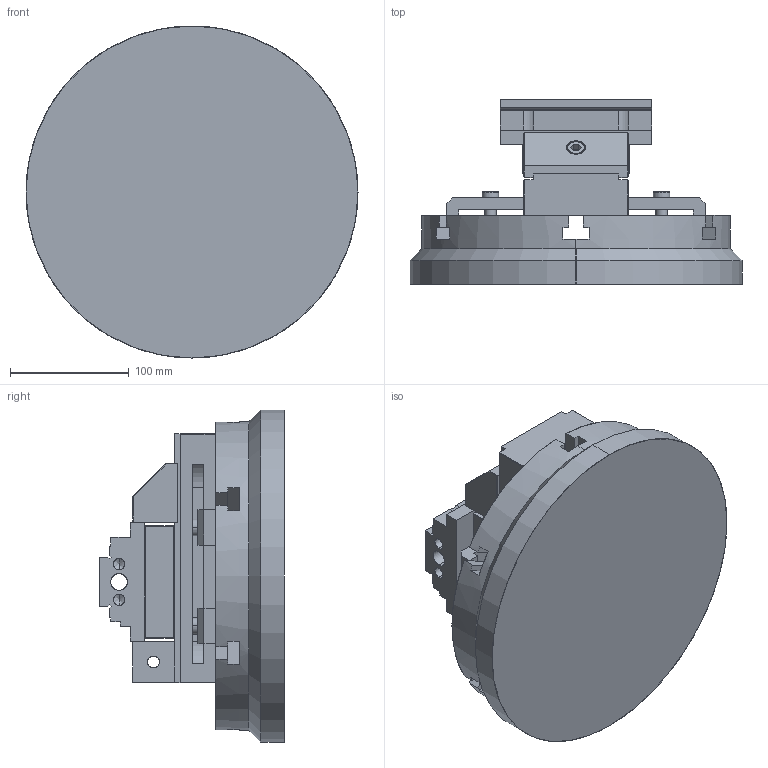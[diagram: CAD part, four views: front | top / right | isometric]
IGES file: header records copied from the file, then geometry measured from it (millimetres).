
Start section: SolidWorks IGES file using analytic representation for surfaces
Global section: file name: J:\Scolaire\BAC Pro\Epreuves professionnelles\E2\CD\Dossier Examinateurs\Dessins CN 5 axes\IGES\Plateau + pièce.IGS; native system: SolidWorks 2005 by SolidWorks Corporation; preprocessor: SolidWorks 2005 by SolidWorks Corporation; author: Famille Couzi; date: 091204.125823; units: millimetre
Bounding box: 280 x 156 x 280 mm (x, y, z)
Surface area: 420034.7 mm2 (no closed solid volume)
Topology: 0 solids, 0 shells, 421 faces, 4792 edges, 4760 vertices
Faces by surface type: bspline 276, revolution 145
